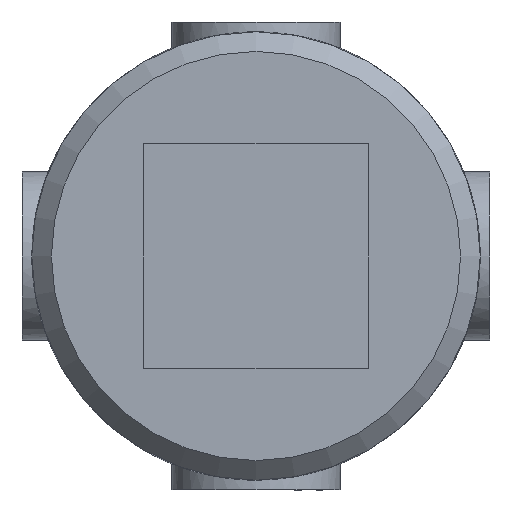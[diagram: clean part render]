
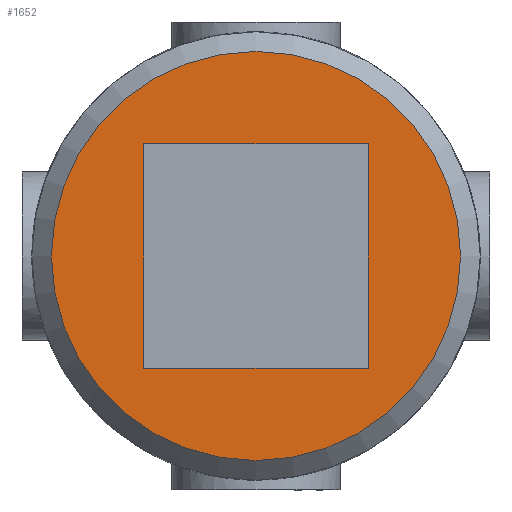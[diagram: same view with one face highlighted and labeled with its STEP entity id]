
A CAD part, front view. The second image highlights one B-rep face of the part: STEP entity #1652.
In plain terms, the highlighted planar face has unit normal (0, -1, 0).
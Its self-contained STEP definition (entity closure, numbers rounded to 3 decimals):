
#112=LINE('',#3078,#176);
#116=LINE('',#3101,#180);
#122=LINE('',#3139,#186);
#125=LINE('',#3159,#189);
#176=VECTOR('',#2139,8.);
#180=VECTOR('',#2147,8.);
#186=VECTOR('',#2155,8.);
#189=VECTOR('',#2162,8.);
#240=PLANE('',#1818);
#377=FACE_BOUND('',#602,.T.);
#463=FACE_OUTER_BOUND('',#601,.T.);
#601=EDGE_LOOP('',(#1439));
#602=EDGE_LOOP('',(#1440,#1441,#1442,#1443));
#690=CIRCLE('',#1816,7.3);
#813=VERTEX_POINT('',#3075);
#814=VERTEX_POINT('',#3077);
#820=VERTEX_POINT('',#3100);
#829=VERTEX_POINT('',#3137);
#836=VERTEX_POINT('',#3204);
#1013=EDGE_CURVE('',#814,#813,#112,.T.);
#1020=EDGE_CURVE('',#820,#814,#116,.T.);
#1030=EDGE_CURVE('',#813,#829,#122,.T.);
#1036=EDGE_CURVE('',#829,#820,#125,.T.);
#1047=EDGE_CURVE('',#836,#836,#690,.T.);
#1439=ORIENTED_EDGE('',*,*,#1047,.F.);
#1440=ORIENTED_EDGE('',*,*,#1013,.T.);
#1441=ORIENTED_EDGE('',*,*,#1030,.T.);
#1442=ORIENTED_EDGE('',*,*,#1036,.T.);
#1443=ORIENTED_EDGE('',*,*,#1020,.T.);
#1652=ADVANCED_FACE('',(#463,#377),#240,.F.);
#1816=AXIS2_PLACEMENT_3D('',#3205,#2191,#2192);
#1818=AXIS2_PLACEMENT_3D('',#3373,#2199,#2200);
#2139=DIRECTION('',(0.,0.,-1.));
#2147=DIRECTION('',(1.,0.,0.));
#2155=DIRECTION('',(-1.,0.,0.));
#2162=DIRECTION('',(0.,0.,1.));
#2191=DIRECTION('center_axis',(0.,1.,0.));
#2192=DIRECTION('ref_axis',(1.,0.,0.));
#2199=DIRECTION('center_axis',(0.,1.,0.));
#2200=DIRECTION('ref_axis',(0.,0.,1.));
#3075=CARTESIAN_POINT('',(4.,-30.,-4.));
#3077=CARTESIAN_POINT('',(4.,-30.,4.));
#3078=CARTESIAN_POINT('',(4.,-30.,2.));
#3100=CARTESIAN_POINT('',(-4.,-30.,4.));
#3101=CARTESIAN_POINT('',(-2.,-30.,4.));
#3137=CARTESIAN_POINT('',(-4.,-30.,-4.));
#3139=CARTESIAN_POINT('',(2.,-30.,-4.));
#3159=CARTESIAN_POINT('',(-4.,-30.,-2.));
#3204=CARTESIAN_POINT('',(-7.3,-30.,0.));
#3205=CARTESIAN_POINT('Origin',(0.,-30.,0.));
#3373=CARTESIAN_POINT('Origin',(0.,-30.,0.));
